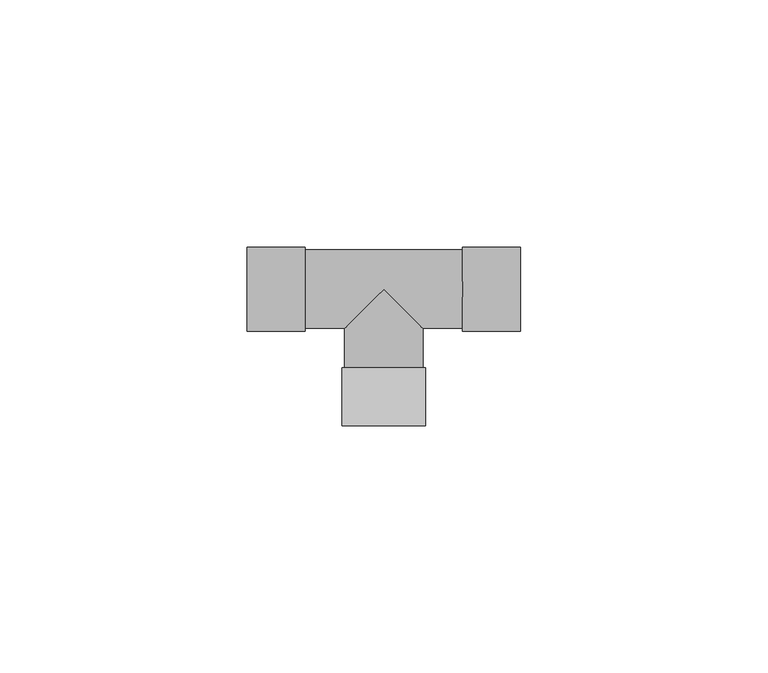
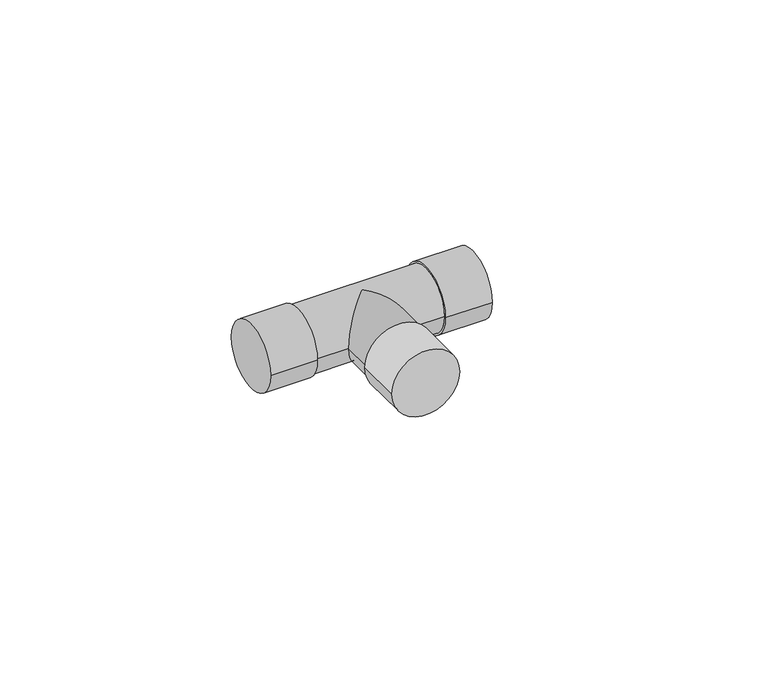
"""IFC4 building model written with IfcOpenShell, lengths in millimetres: pipe fitting geometry, Tê - Soldado - CU : Padrão."""

from ifc_helpers import new_model, si_unit, frame, origin, place, context, project, spatial, circle_curve, ellipse_curve, source, transform, mapped, element, save
from ifc_brep_helpers import plane_surface, cylinder_surface, advanced_brep


def pipe_fitting_b10472de(model_context):
    return source(origin(), model_context, "Body", "AdvancedBrep", [
        advanced_brep(
        [(8.4637, -27.5847, 0.0), (-8.4637, -27.5847, 0.0), (8.4637, -15.9158, 0.0), (-8.4637, -15.9158, 0.0), (7.935, -15.9158, 0.0), (-7.935, -15.9158, 0.0), (-27.63535, -8.4637, 0.0), (-27.63535, 8.4637, 0.0), (-15.96645, -8.4637, 0.0), (-15.96645, 8.4637, 0.0), (-15.96645, -7.935, 0.0), (-15.96645, 7.935, 0.0), (15.96645, 7.935, 0.0), (-7.935, -7.935, 0.0), (0.0, 0.0, 7.935), (7.935, -7.935, 0.0), (15.96645, -7.935, 0.0), (0.0, 0.0, -7.935), (15.96645, -8.4637, 0.0), (15.96645, 8.4637, 0.0), (27.63535, -8.4637, 0.0), (27.63535, 8.4637, 0.0)],
        [
            (0, 1, circle_curve(frame((0.0, -27.5847, 0.0), z_axis=(0.0, -1.0, 0.0), x_axis=(-1.0, 0.0, 0.0)), 8.4637)),
            (1, 0, circle_curve(frame((0.0, -27.5847, 0.0), z_axis=(0.0, -1.0, 0.0), x_axis=(-1.0, 0.0, 0.0)), 8.4637)),
            (2, 3, circle_curve(frame((0.0, -15.9158, 0.0), z_axis=(0.0, 1.0, 0.0), x_axis=(-1.0, 0.0, 0.0)), 8.4637)),
            (3, 2, circle_curve(frame((0.0, -15.9158, 0.0), z_axis=(0.0, 1.0, 0.0), x_axis=(-1.0, 0.0, 0.0)), 8.4637)),
            (4, 5, circle_curve(frame((0.0, -15.9158, 0.0), z_axis=(0.0, -1.0, 0.0), x_axis=(1.0, 0.0, 0.0)), 7.935)),
            (5, 4, circle_curve(frame((0.0, -15.9158, 0.0), z_axis=(0.0, -1.0, 0.0), x_axis=(1.0, 0.0, 0.0)), 7.935)),
            (0, 2),
            (3, 1),
            (6, 7, circle_curve(frame((-27.63535, 0.0, 0.0), z_axis=(-1.0, 0.0, 0.0), x_axis=(0.0, 1.0, 0.0)), 8.4637)),
            (7, 6, circle_curve(frame((-27.63535, 0.0, 0.0), z_axis=(-1.0, 0.0, 0.0), x_axis=(0.0, 1.0, 0.0)), 8.4637)),
            (8, 9, circle_curve(frame((-15.96645, 0.0, 0.0), z_axis=(1.0, 0.0, 0.0), x_axis=(0.0, 1.0, 0.0)), 8.4637)),
            (9, 8, circle_curve(frame((-15.96645, 0.0, 0.0), z_axis=(1.0, 0.0, 0.0), x_axis=(0.0, 1.0, 0.0)), 8.4637)),
            (10, 11, circle_curve(frame((-15.96645, 0.0, 0.0), z_axis=(-1.0, 0.0, 0.0), x_axis=(0.0, 1.0, 0.0)), 7.935)),
            (11, 10, circle_curve(frame((-15.96645, 0.0, 0.0), z_axis=(-1.0, 0.0, 0.0), x_axis=(0.0, 1.0, 0.0)), 7.935)),
            (6, 8),
            (9, 7),
            (12, 11),
            (10, 13),
            (13, 14, ellipse_curve(frame((0.0, 0.0, 0.0), z_axis=(-0.7071067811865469, 0.7071067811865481, 0.0), x_axis=(-0.707106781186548, -0.7071067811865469, 0.0)), 11.2217846, 7.935)),
            (14, 15, ellipse_curve(frame((0.0, 0.0, 0.0), z_axis=(0.7071067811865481, 0.7071067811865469, 0.0), x_axis=(-0.707106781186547, 0.7071067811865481, 0.0)), 11.2217846, 7.935)),
            (15, 16),
            (16, 12, circle_curve(frame((15.96645, 0.0, 0.0), z_axis=(-1.0, 0.0, 0.0), x_axis=(0.0, 1.0, 0.0)), 7.935)),
            (12, 16, circle_curve(frame((15.96645, 0.0, 0.0), z_axis=(-1.0, 0.0, 0.0), x_axis=(0.0, 1.0, 0.0)), 7.935)),
            (15, 17, ellipse_curve(frame((0.0, 0.0, 0.0), z_axis=(0.7071067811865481, 0.7071067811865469, 0.0), x_axis=(-0.707106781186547, 0.7071067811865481, 0.0)), 11.2217846, 7.935)),
            (17, 13, ellipse_curve(frame((0.0, 0.0, 0.0), z_axis=(-0.7071067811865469, 0.7071067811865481, 0.0), x_axis=(-0.707106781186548, -0.7071067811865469, 0.0)), 11.2217846, 7.935)),
            (18, 19, circle_curve(frame((15.96645, 0.0, 0.0), z_axis=(-1.0, 0.0, 0.0), x_axis=(0.0, 1.0, 0.0)), 8.4637)),
            (19, 18, circle_curve(frame((15.96645, 0.0, 0.0), z_axis=(-1.0, 0.0, 0.0), x_axis=(0.0, 1.0, 0.0)), 8.4637)),
            (20, 21, circle_curve(frame((27.63535, 0.0, 0.0), z_axis=(1.0, 0.0, 0.0), x_axis=(0.0, 1.0, 0.0)), 8.4637)),
            (21, 20, circle_curve(frame((27.63535, 0.0, 0.0), z_axis=(1.0, 0.0, 0.0), x_axis=(0.0, 1.0, 0.0)), 8.4637)),
            (18, 20),
            (21, 19),
            (4, 15),
            (13, 5),
        ],
        [
            plane_surface(frame((0.0, -27.5847, 0.0), z_axis=(0.0, -1.0, 0.0), x_axis=(0.0, 0.0, 1.0))),
            plane_surface(frame((0.0, -15.9158, 0.0), z_axis=(0.0, 1.0, 0.0), x_axis=(0.0, 0.0, 1.0))),
            cylinder_surface(frame((0.0, -27.5847, 0.0), z_axis=(0.0, -1.0, 0.0), x_axis=(-1.0, 0.0, 0.0)), 8.4637),
            plane_surface(frame((-27.63535, 0.0, 0.0), z_axis=(-1.0, 0.0, 0.0), x_axis=(0.0, 0.0, 1.0))),
            plane_surface(frame((-15.96645, 0.0, 0.0), z_axis=(1.0, 0.0, 0.0), x_axis=(0.0, 0.0, 1.0))),
            cylinder_surface(frame((-27.63535, 0.0, 0.0), z_axis=(-1.0, 0.0, 0.0), x_axis=(0.0, 1.0, 0.0)), 8.4637),
            cylinder_surface(frame((-15.96645, 0.0, 0.0), z_axis=(-1.0, 0.0, 0.0), x_axis=(0.0, 1.0, 0.0)), 7.935),
            plane_surface(frame((15.96645, 0.0, 0.0), z_axis=(-1.0, 0.0, 0.0), x_axis=(0.0, 0.0, 1.0))),
            plane_surface(frame((27.63535, 0.0, 0.0), z_axis=(1.0, 0.0, 0.0), x_axis=(0.0, 0.0, 1.0))),
            cylinder_surface(frame((15.96645, 0.0, 0.0), z_axis=(-1.0, 0.0, 0.0), x_axis=(0.0, 1.0, 0.0)), 8.4637),
            cylinder_surface(frame((0.0, 0.0, 0.0), z_axis=(0.0, 1.0, 0.0), x_axis=(1.0, 0.0, 0.0)), 7.935),
        ],
        [
            (0, [[1, 2]]),
            (1, [[3, 4], [5, 6]]),
            (2, [[-1, 7, -4, 8]]),
            (2, [[-2, -8, -3, -7]]),
            (3, [[9, 10]]),
            (4, [[11, 12], [13, 14]]),
            (5, [[-9, 15, -12, 16]]),
            (5, [[-10, -16, -11, -15]]),
            (6, [[17, -13, 18, 19, 20, 21, 22]]),
            (6, [[-17, 23, -21, 24, 25, -18, -14]]),
            (7, [[26, 27], [-22, -23]]),
            (8, [[28, 29]]),
            (9, [[-26, 30, -29, 31]]),
            (9, [[-27, -31, -28, -30]]),
            (10, [[32, -20, -19, 33, -5]]),
            (10, [[-32, -6, -33, -25, -24]]),
        ],
    ),
    ])


if __name__ == "__main__":
    model = new_model("IFC4")
    model_context = context("Model", 3, world=origin())
    ifc_project = project(units=[si_unit("LENGTHUNIT", "METRE", prefix="MILLI")], contexts=[model_context])
    site = spatial("IfcSite", under=ifc_project)
    building = spatial("IfcBuilding", under=site)
    placement = place(None, origin())
    pipe_fitting_shape = pipe_fitting_b10472de(model_context)
    element("IfcPipeFitting", 1, ObjectType="Tê - Soldado - CU : Padrão", at=placement, inside=building, context=model_context, shape_type="MappedRepresentation", body=[
        mapped(pipe_fitting_shape, transform((0.0, 0.0, 0.0), x_axis=(1.0, 0.0, 0.0), y_axis=(0.0, 1.0, 0.0), z_axis=(0.0, 0.0, 1.0))),
    ])
    save(model, "model.ifc")
